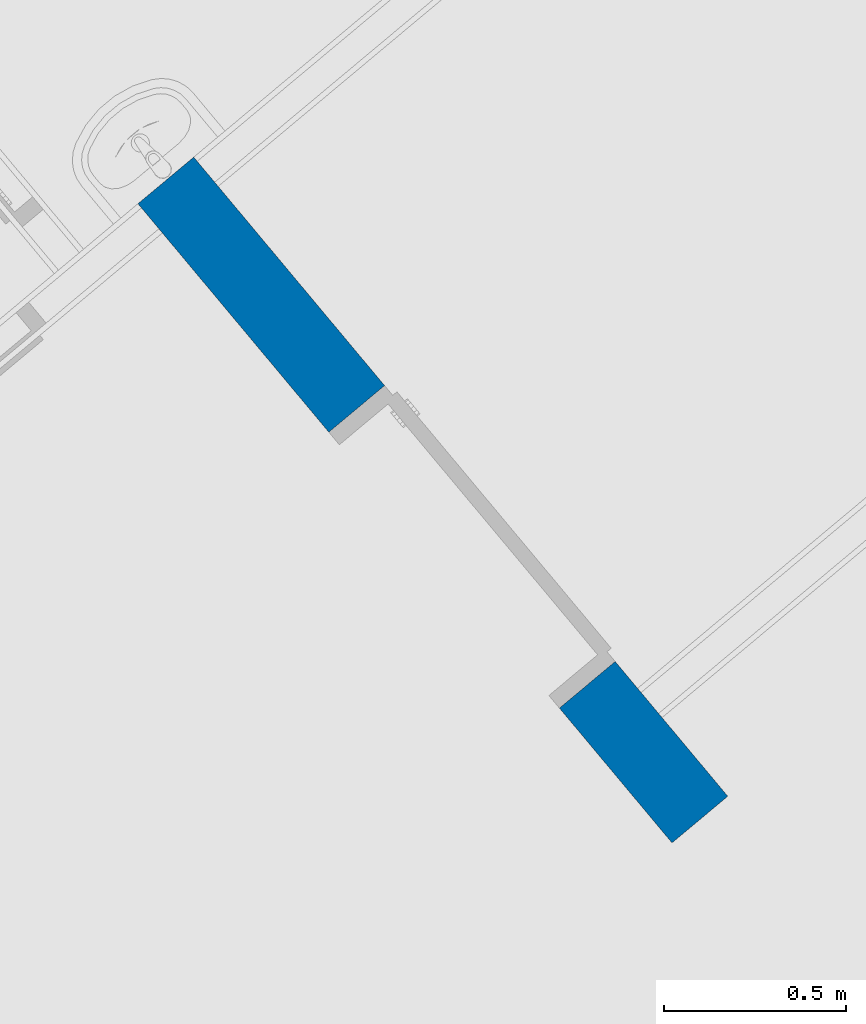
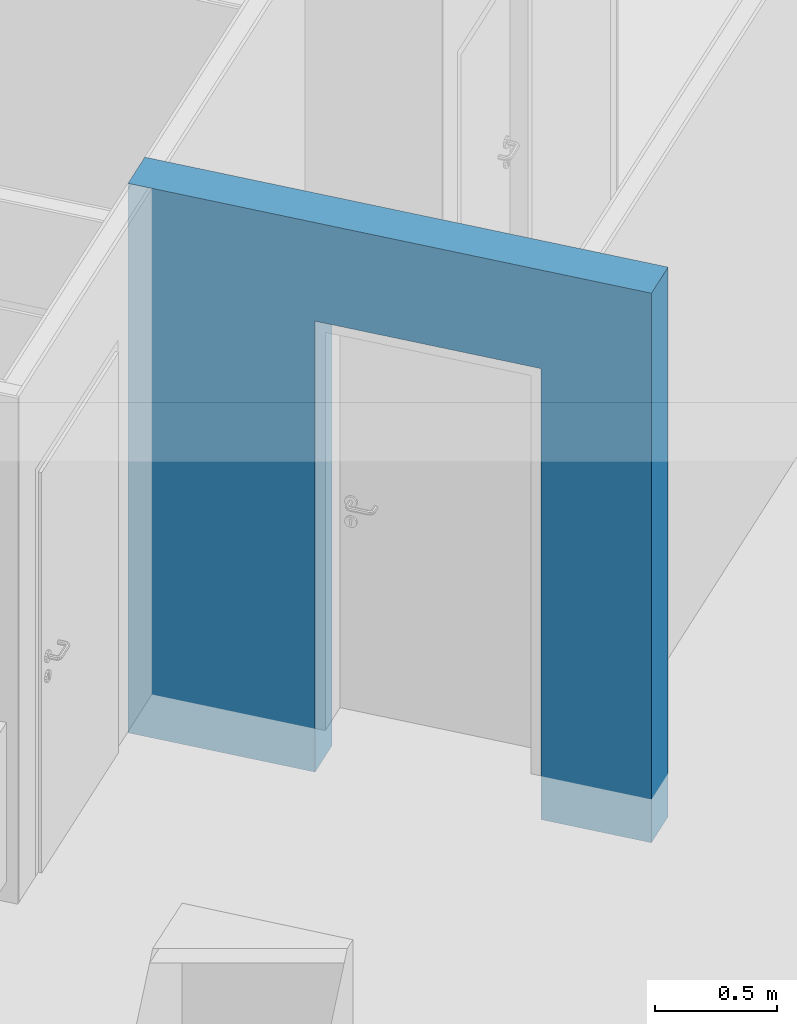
# One storey, part 2 of 58: 1 wall, 1 opening.
"""IFC4 building model written with IfcOpenShell, lengths in metres."""

from ifc_helpers import new_model, entity, si_unit, converted_unit, derived_unit, direction, frame, origin_with_axes, place, context, subcontext, project, spatial, polygons, material, type_object, element, save


model = new_model("IFC4")

# Units and contexts
model_context = context("Model", 3, precision=1e-05, world=origin_with_axes(), true_north=direction((0.0, 1.0)))
body_context = subcontext(model_context, "Body", "Model", "MODEL_VIEW")
ifc_project = project(units=[si_unit("LENGTHUNIT", "METRE"), si_unit("AREAUNIT", "SQUARE_METRE"), si_unit("VOLUMEUNIT", "CUBIC_METRE"), converted_unit("PLANEANGLEUNIT", "DEGREE", entity("IfcPlaneAngleMeasure", 0.0174532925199), si_unit("PLANEANGLEUNIT", "RADIAN"), dimensions=[0, 0, 0, 0, 0, 0, 0]), converted_unit("TIMEUNIT", "Year", entity("IfcTimeMeasure", 31556926.0), si_unit("TIMEUNIT", "SECOND"), dimensions=[0, 0, 1, 0, 0, 0, 0]), si_unit("MASSUNIT", "GRAM", prefix="KILO"), si_unit("THERMODYNAMICTEMPERATUREUNIT", "DEGREE_CELSIUS"), si_unit("LUMINOUSINTENSITYUNIT", "LUMEN"), si_unit("ENERGYUNIT", "JOULE", prefix="MEGA"), derived_unit("THERMALCONDUCTANCEUNIT", [(si_unit("POWERUNIT", "WATT"), 1), (si_unit("LENGTHUNIT", "METRE"), -1), (si_unit("THERMODYNAMICTEMPERATUREUNIT", "KELVIN"), -1)]), derived_unit("SPECIFICHEATCAPACITYUNIT", [(si_unit("ENERGYUNIT", "JOULE"), 1), (si_unit("MASSUNIT", "GRAM", prefix="KILO"), -1), (si_unit("THERMODYNAMICTEMPERATUREUNIT", "KELVIN"), -1)]), derived_unit("MASSDENSITYUNIT", [(si_unit("MASSUNIT", "GRAM", prefix="KILO"), 1), (si_unit("VOLUMEUNIT", "CUBIC_METRE"), -1)])], contexts=[model_context])

# Site, building, storey
site_placement = place(None, frame((-0.00153261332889, -0.00661245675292, 0.0), z_axis=(0.0, 0.0, 1.0), x_axis=(1.0, 0.0, 0.0)))
site = spatial("IfcSite", under=ifc_project, at=site_placement, Name="Site", CompositionType="ELEMENT")
building_placement = place(site_placement, origin_with_axes())
building = spatial("IfcBuilding", under=site, at=building_placement, Name="Building", CompositionType="ELEMENT")
storey_placement = place(building_placement, frame((0.0, 0.0, 5.7), z_axis=(0.0, 0.0, 1.0), x_axis=(1.0, 0.0, 0.0)))
storey = spatial("IfcBuildingStorey", under=building, at=storey_placement, Name="DG1", CompositionType="ELEMENT", Elevation=5.7)

# Wall, opening
ifc_material = material(Name="Stahlbeton Wand")
wall_type = type_object("IfcWallType", Name="Stahlbeton Wand 200", PredefinedType="NOTDEFINED")
wall_placement = place(storey_placement, frame((0.771856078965, 16.1631018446, 0.0), z_axis=(0.0, 0.0, 1.0), x_axis=(-0.641209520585, 0.767365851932, 0.0)))
wall = element("IfcWall", 1, at=wall_placement, inside=storey, type_object=wall_type, material=ifc_material, Name="Wand-003", PredefinedType="NOTDEFINED", context=body_context, shape_type="Tessellation", body=[
    polygons([(1.47351340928, 0.0, 2.265), (1.47351340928, 5.04680901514e-08, 0.22), (1.47351333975, 5.04680901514e-08, 0.0), (2.29315960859, 0.0, 0.0), (2.29315960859, 0.0, 2.76), (0.0, 0.0, 2.76), (0.0, 0.0, 0.0), (0.483513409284, -2.14801154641e-09, 0.0), (0.483513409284, -2.14801154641e-09, 0.22), (0.483513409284, 0.0, 2.265), (1.47351340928, 0.2, 2.265), (1.47351340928, 0.2, 0.22), (1.47351334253, 0.2, 0.0), (2.29315960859, 0.2, 0.0), (2.29315960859, 0.2, 2.76), (0.0, 0.2, 2.76), (0.0, 0.2, 0.0), (0.483513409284, 0.2, 0.0), (0.483513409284, 0.2, 0.22), (0.483513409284, 0.2, 2.265)], [[[1, 2, 3, 4, 5, 6, 7, 8, 9, 10]], [[2, 1, 11, 12]], [[2, 12, 13, 3]], [[3, 13, 14, 4]], [[4, 14, 15, 5]], [[5, 15, 16, 6]], [[16, 17, 7, 6]], [[18, 8, 7, 17]], [[19, 9, 8, 18]], [[10, 9, 19, 20]], [[1, 10, 20, 11]], [[20, 19, 18, 17, 16, 15, 14, 13, 12, 11]]], closed=True),
])
opening_placement = place(wall_placement, frame((0.978513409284, 0.0, 0.22), z_axis=(0.0, 0.0, 1.0), x_axis=(1.0, 0.0, 0.0)))
element("IfcOpeningElement", 2, at=opening_placement, cuts=wall, Name="Tür-017", context=body_context, identifier="Reference", shape_type="Tessellation", body=[
    polygons([(0.495, 1.32933150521, 2.045), (0.495, 1.32933150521, -0.22), (-0.495, 1.32933150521, -0.22), (-0.495, 1.32933150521, 2.045), (0.495, -1.12933150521, 2.045), (0.495, -1.12933150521, -0.22), (-0.495, -1.12933150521, -0.22), (-0.495, -1.12933150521, 2.045)], [[[1, 2, 3, 4]], [[5, 6, 2, 1]], [[6, 7, 3, 2]], [[7, 8, 4, 3]], [[8, 5, 1, 4]], [[7, 6, 5, 8]]], closed=True),
])

save(model, "model.ifc")
